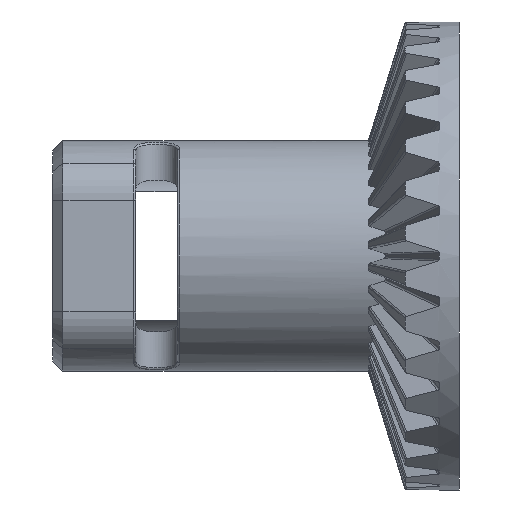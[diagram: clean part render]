
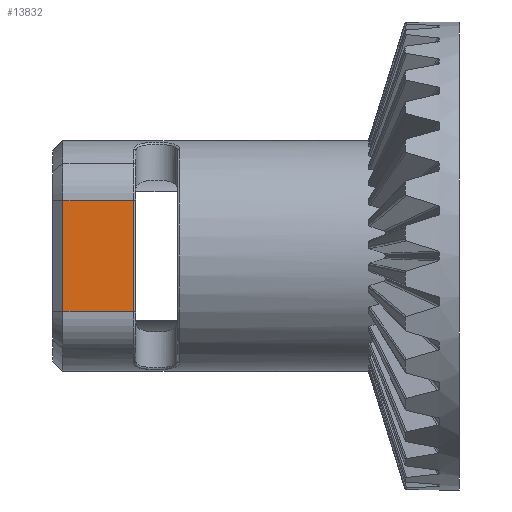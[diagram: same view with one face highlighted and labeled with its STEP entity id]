
A CAD part, front view. The second image highlights one B-rep face of the part: STEP entity #13832.
In plain terms, the highlighted planar face has unit normal (0, -1, 0).
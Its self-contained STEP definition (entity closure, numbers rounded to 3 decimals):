
#16521 = VERTEX_POINT ( 'NONE', #8413 ) ;
#16932 = VERTEX_POINT ( 'NONE', #8596 ) ;
#1609 = LINE ( 'NONE', #1610, #1611 ) ;
#1610 = CARTESIAN_POINT ( 'NONE',  ( -13.464, -4.2, -2.687 ) ) ;
#1611 = VECTOR ( 'NONE', #1612, 1000. ) ;
#1612 = DIRECTION ( 'NONE',  ( 1., 0., 0. ) ) ;
#18111 = ORIENTED_EDGE ( 'NONE', *, *, #18563, .T. ) ;
#2080 = CARTESIAN_POINT ( 'NONE',  ( -12.964, -4.2, -2.687 ) ) ;
#18563 = EDGE_CURVE ( 'NONE', #16521, #9976, #9848, .T. ) ;
#19140 = ORIENTED_EDGE ( 'NONE', *, *, #9694, .T. ) ;
#19679 = ORIENTED_EDGE ( 'NONE', *, *, #20008, .T. ) ;
#3327 = CARTESIAN_POINT ( 'NONE',  ( -9.564, -4.2, -2.687 ) ) ;
#20008 = EDGE_CURVE ( 'NONE', #10203, #16932, #11047, .T. ) ;
#6871 = FACE_OUTER_BOUND ( 'NONE', #14459, .T. ) ;
#6872 = PLANE ( 'NONE',  #6873 ) ;
#6873 = AXIS2_PLACEMENT_3D ( 'NONE', #6874, #6875, #6876 ) ;
#6874 = CARTESIAN_POINT ( 'NONE',  ( -13.464, -4.2, -2.687 ) ) ;
#6875 = DIRECTION ( 'NONE',  ( 0., 1., 0. ) ) ;
#6876 = DIRECTION ( 'NONE',  ( 0., 0., 1. ) ) ;
#8208 = LINE ( 'NONE', #8209, #8210 ) ;
#8209 = CARTESIAN_POINT ( 'NONE',  ( -13.464, -4.2, 2.687 ) ) ;
#8210 = VECTOR ( 'NONE', #8211, 1000. ) ;
#8211 = DIRECTION ( 'NONE',  ( 1., 0., 0. ) ) ;
#8413 = CARTESIAN_POINT ( 'NONE',  ( -12.964, -4.2, 2.687 ) ) ;
#8596 = CARTESIAN_POINT ( 'NONE',  ( -9.564, -4.2, 2.687 ) ) ;
#9694 = EDGE_CURVE ( 'NONE', #9976, #10203, #1609, .T. ) ;
#9848 = LINE ( 'NONE', #9849, #9850 ) ;
#9849 = CARTESIAN_POINT ( 'NONE',  ( -12.964, -4.2, -2.687 ) ) ;
#9850 = VECTOR ( 'NONE', #9851, 1000. ) ;
#9851 = DIRECTION ( 'NONE',  ( 0., 0., -1. ) ) ;
#9976 = VERTEX_POINT ( 'NONE', #2080 ) ;
#10203 = VERTEX_POINT ( 'NONE', #3327 ) ;
#11047 = LINE ( 'NONE', #11048, #11057 ) ;
#11048 = CARTESIAN_POINT ( 'NONE',  ( -9.564, -4.2, -2.687 ) ) ;
#11057 = VECTOR ( 'NONE', #11058, 1000. ) ;
#11058 = DIRECTION ( 'NONE',  ( 0., 0., 1. ) ) ;
#13832 = ADVANCED_FACE ( 'NONE', ( #6871 ), #6872, .F. ) ;
#14459 = EDGE_LOOP ( 'NONE', ( #15380, #18111, #19140, #19679 ) ) ;
#15380 = ORIENTED_EDGE ( 'NONE', *, *, #16041, .F. ) ;
#16041 = EDGE_CURVE ( 'NONE', #16521, #16932, #8208, .T. ) ;
